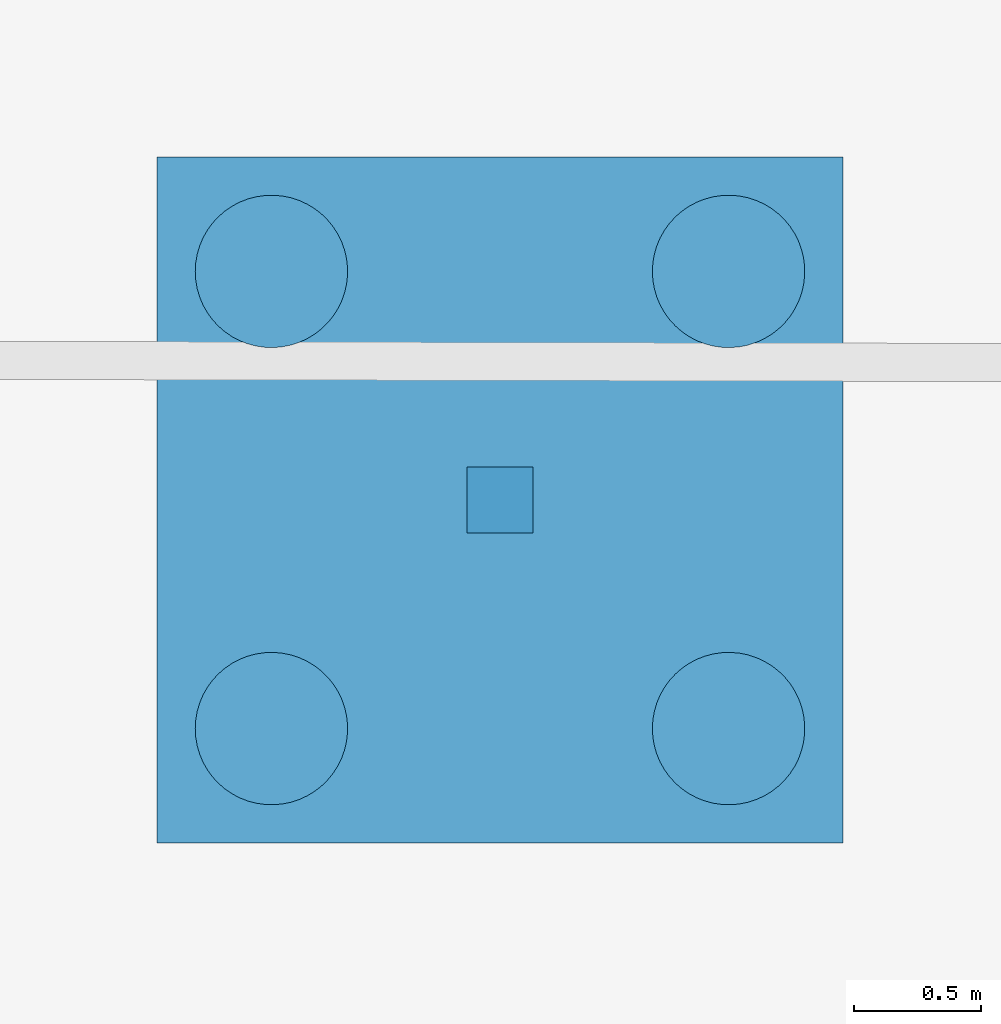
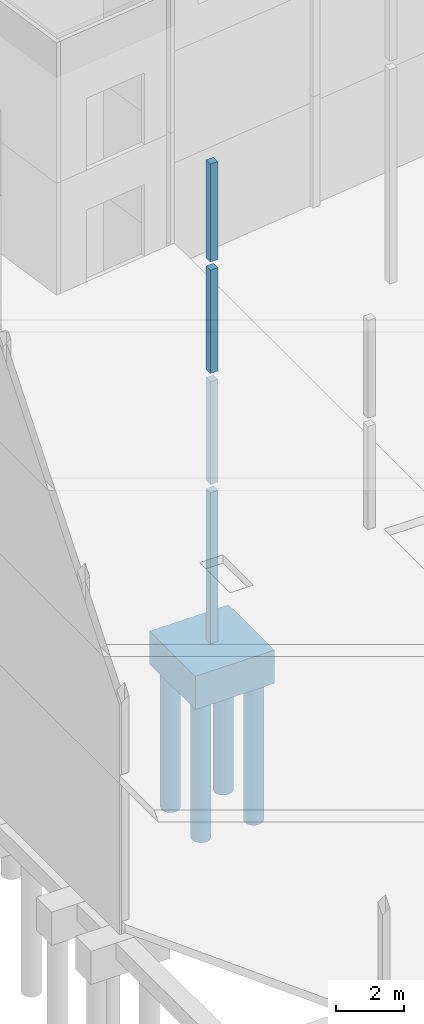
# One storey, part 19 of 82: 9 columns.
"""IFC2X3 building model written with IfcOpenShell, lengths in millimetres."""

from ifc_helpers import new_model, si_unit, frame, frame_2d, origin_with_axes, place, context, subcontext, project, spatial, polyline, rectangle, circle, outline, extrude, material, type_object, element, save


model = new_model("IFC2X3")

# Units and contexts
model_context = context("Model", 3, precision=1e-05, world=origin_with_axes())
body_context = subcontext(model_context, "Body", "Model", "MODEL_VIEW")
ifc_project = project(units=[si_unit("LENGTHUNIT", "METRE", prefix="MILLI"), si_unit("AREAUNIT", "SQUARE_METRE"), si_unit("VOLUMEUNIT", "CUBIC_METRE"), si_unit("MASSUNIT", "GRAM", prefix="KILO"), si_unit("TIMEUNIT", "SECOND"), si_unit("PLANEANGLEUNIT", "RADIAN"), si_unit("SOLIDANGLEUNIT", "STERADIAN"), si_unit("THERMODYNAMICTEMPERATUREUNIT", "DEGREE_CELSIUS"), si_unit("LUMINOUSINTENSITYUNIT", "LUMEN")], contexts=[model_context])

# Site, building, storey
site_placement = place(None, origin_with_axes())
site = spatial("IfcSite", under=ifc_project, at=site_placement, Name="Undefined", CompositionType="ELEMENT")
building_placement = place(site_placement, origin_with_axes())
building = spatial("IfcBuilding", under=site, at=building_placement, Name="Undefined", CompositionType="ELEMENT")
storey_placement = place(building_placement, origin_with_axes())
storey = spatial("IfcBuildingStorey", under=building, at=storey_placement, Name="Undefined", CompositionType="ELEMENT", Elevation=0.0)

# Columns
ifc_material_1 = material(Name="CONCRETE/C25/30")
column_type_1 = type_object("IfcColumnType", Name="260*260", PredefinedType="NOTDEFINED")
column_1_placement = place(storey_placement, frame((9749.99999997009, 18599.9998779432, 13330.0), z_axis=(0.0, 0.0, 1.0), x_axis=(1.0, 0.0, 0.0)))
element("IfcColumn", 1, at=column_1_placement, inside=storey, type_object=column_type_1, material=ifc_material_1, Name="POTEAU", ObjectType="260*260", context=body_context, shape_type="SweptSolid", body=[
    extrude(rectangle(XDim=260.0, YDim=260.0, at=frame_2d((5.17284206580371e-08, 4.49290382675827e-10), x_axis=(1.0, 0.0))), frame((0.0, 0.0, 3529.99999999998), z_axis=(0.0, -6.50000002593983e-08, -0.999999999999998), x_axis=(-1.0, 0.0, 0.0)), (0.0, 0.0, 1.0), 3530.0),
])
column_2_placement = place(storey_placement, frame((9749.99999997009, 18599.9998779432, 9305.0), z_axis=(0.0, 0.0, 1.0), x_axis=(1.0, 0.0, 0.0)))
element("IfcColumn", 2, at=column_2_placement, inside=storey, type_object=column_type_1, material=ifc_material_1, Name="POTEAU", ObjectType="260*260", context=body_context, shape_type="SweptSolid", body=[
    extrude(rectangle(XDim=260.0, YDim=260.0, at=frame_2d((5.17284206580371e-08, 4.49290382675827e-10), x_axis=(1.0, 0.0))), frame((0.0, 0.0, 3725.0), z_axis=(0.0, -6.50000002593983e-08, -0.999999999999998), x_axis=(-1.0, 0.0, 0.0)), (0.0, 0.0, 1.0), 3725.0),
])
column_3_placement = place(storey_placement, frame((9749.99999997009, 18599.9998779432, 5300.0), z_axis=(0.0, 0.0, 1.0), x_axis=(1.0, 0.0, 0.0)))
element("IfcColumn", 3, at=column_3_placement, inside=storey, type_object=column_type_1, material=ifc_material_1, Name="POTEAU", ObjectType="260*260", context=body_context, shape_type="SweptSolid", body=[
    extrude(rectangle(XDim=260.0, YDim=260.0, at=frame_2d((5.17284206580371e-08, 4.49290382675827e-10), x_axis=(1.0, 0.0))), frame((0.0, 0.0, 3705.00000000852), z_axis=(0.0, -6.50000002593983e-08, -0.999999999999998), x_axis=(-1.0, 0.0, 0.0)), (0.0, 0.0, 1.0), 3705.0),
])
column_4_placement = place(storey_placement, frame((9749.99999997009, 18599.9998779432, -449.999511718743), z_axis=(0.0, 0.0, 1.0), x_axis=(1.0, 0.0, 0.0)))
element("IfcColumn", 4, at=column_4_placement, inside=storey, type_object=column_type_1, material=ifc_material_1, Name="POTEAU", ObjectType="260*260", context=body_context, shape_type="SweptSolid", body=[
    extrude(rectangle(XDim=260.0, YDim=260.0, at=frame_2d((5.17284206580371e-08, 4.49290382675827e-10), x_axis=(1.0, 0.0))), frame((0.0, 0.0, 5449.9995117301), z_axis=(0.0, -6.50000002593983e-08, -0.999999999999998), x_axis=(-1.0, 0.0, 0.0)), (0.0, 0.0, 1.0), 5450.0),
])
ifc_material_2 = material(Name="CONCRETE/C30/37")
column_type_2 = type_object("IfcColumnType", Name="1200*2700", PredefinedType="NOTDEFINED")
column_5_placement = place(storey_placement, frame((11099.9997110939, 19950.000000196, -1050.00146504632), z_axis=(0.0, 0.0, 1.0), x_axis=(-1.0, 0.0, 0.0)))
element("IfcColumn", 5, at=column_5_placement, inside=storey, type_object=column_type_2, material=ifc_material_2, Name="SEMELLE", ObjectType="1200*2700", context=body_context, shape_type="SweptSolid", body=[
    extrude(outline(polyline([(5.17284206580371e-08, 4.49290382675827e-10), (2700.00000002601, 4.04543243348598e-09), (2700.00000004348, 2700.0), (6.92671164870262e-09, 2700.0), (5.17284206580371e-08, 4.49290382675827e-10)])), frame((0.0, 0.0, -600.0), z_axis=(0.0, 0.0, 1.0), x_axis=(1.0, 0.0, 0.0)), (0.0, 0.0, 1.0), 1200.0),
])
column_type_3 = type_object("IfcColumnType", Name="D600", PredefinedType="NOTDEFINED")
for number, where, z_axis, x_axis in (
    (6, (10649.9999999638, 19499.999999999, -6675.0), (0.0, 0.0, 1.0), (1.0, 0.0, 0.0)),
    (7, (8849.99999996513, 19500.0000000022, -6675.0), (0.0, 0.0, 1.0), (1.0, 0.0, 0.0)),
    (8, (10649.999999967, 17699.9999999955, -6675.0), (0.0, 0.0, 1.0), (1.0, 0.0, 0.0)),
    (9, (8849.99999996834, 17699.9999999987, -6675.0), (0.0, 0.0, 1.0), (1.0, 0.0, 0.0)),
):
    element("IfcColumn", number, at=place(storey_placement, frame(where, z_axis=z_axis, x_axis=x_axis)), inside=storey, type_object=column_type_3, material=ifc_material_1, Name="PIEU", ObjectType="D600", context=body_context, shape_type="SweptSolid", body=[
        extrude(circle(Radius=300.0, at=frame_2d((5.17284206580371e-08, 4.49290382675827e-10), x_axis=(1.0, 0.0))), frame((0.0, 0.0, 5250.0), z_axis=(0.0, -6.50000002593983e-08, -0.999999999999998), x_axis=(-1.0, 0.0, 0.0)), (0.0, 0.0, 1.0), 5250.0),
    ])

save(model, "model.ifc")
